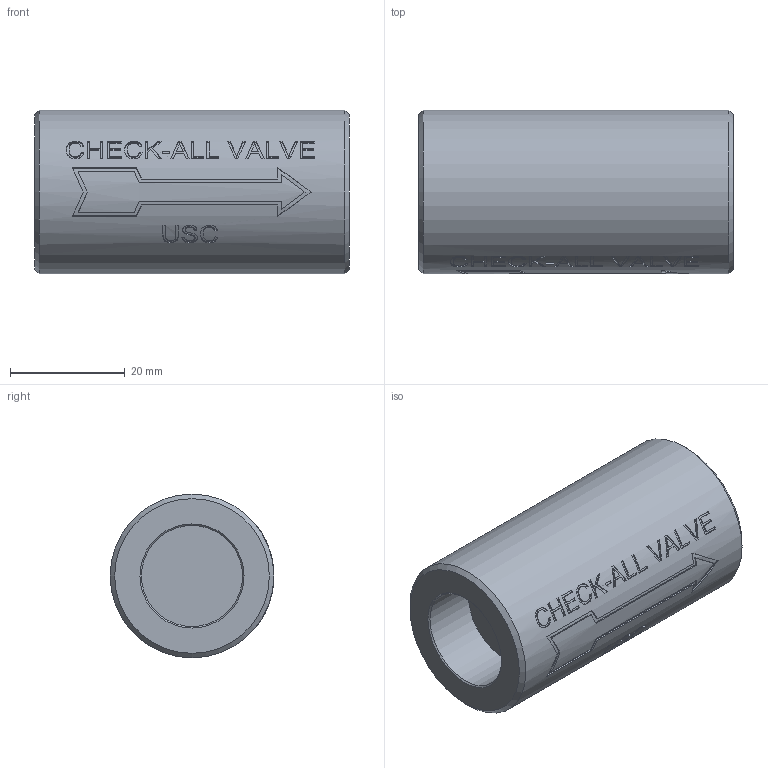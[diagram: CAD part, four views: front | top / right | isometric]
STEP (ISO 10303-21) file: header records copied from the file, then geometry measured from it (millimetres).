
FILE_DESCRIPTION( ( 'Unknown' ), '1' );
FILE_NAME( 'Y:/ENGR/3D Solid Edge Models/US/US-PRT/USC.stp', 'Unknown', ( 'Unknown' ), ( 'Unknown' ), 'PSStep 14.0', 'Unknown', ' ' );
FILE_SCHEMA( ( 'AUTOMOTIVE_DESIGN { 1 0 10303 214 1 1 1 1 }' ) );
Length unit declared in the file: inch
Products named in the file (1): 1
Bounding box: 54.94 x 28.57 x 28.57 mm (x, y, z)
Volume: 30353.4 mm3; surface area: 7309.2 mm2
Topology: 1 solids, 1 shells, 182 faces, 468 edges, 311 vertices
Faces by surface type: plane 99, bspline 55, cylinder 24, cone 4
Full cylindrical faces by diameter (mm): 17.653 x2, 28.575 x1
Entity records: 9996 total; most frequent: CARTESIAN_POINT 5168, ORIENTED_EDGE 920, EDGE_CURVE 460, B_SPLINE_CURVE_WITH_KNOTS 450, VERTEX_POINT 310, DIRECTION 276, EDGE_LOOP 212, FACE_OUTER_BOUND 185
